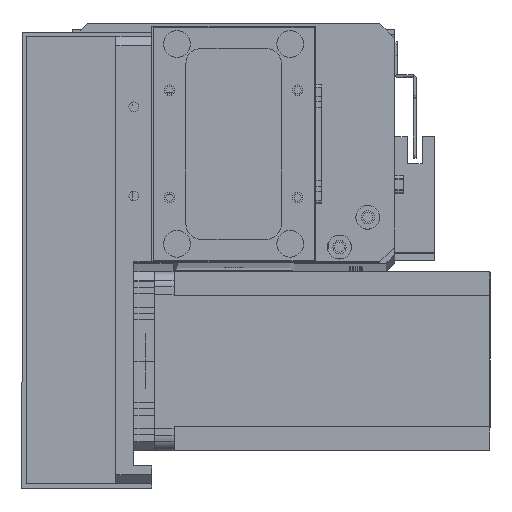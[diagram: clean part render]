
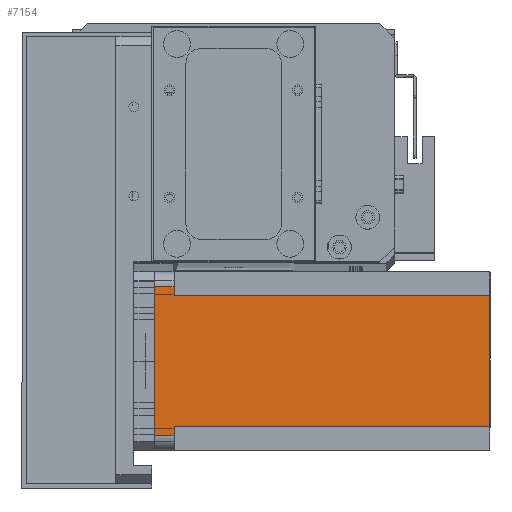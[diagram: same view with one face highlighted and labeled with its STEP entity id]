
A CAD part, top view. The second image highlights one B-rep face of the part: STEP entity #7154.
In plain terms, the highlighted planar face has unit normal (0, 0, 1) as drawn and (0, 1, 0) by its records, which use the part's own axes.
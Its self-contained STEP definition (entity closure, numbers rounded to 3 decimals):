
#1205 = EDGE_CURVE ( 'NONE', #16280, #31450, #6036, .T. ) ;
#1416 = DIRECTION ( 'NONE',  ( 0., 0., -1. ) ) ;
#1650 = DIRECTION ( 'NONE',  ( 0., 0., 1. ) ) ;
#2431 = DIRECTION ( 'NONE',  ( 1., 0., 0. ) ) ;
#3216 = EDGE_CURVE ( 'NONE', #16664, #22192, #31682, .T. ) ;
#3720 = CARTESIAN_POINT ( 'NONE',  ( 8., 60., -6.5 ) ) ;
#4175 = EDGE_LOOP ( 'NONE', ( #22385, #21781, #17034, #6316, #9588, #5628, #22429, #13817 ) ) ;
#4256 = DIRECTION ( 'NONE',  ( 0., 0., 1. ) ) ;
#4469 = DIRECTION ( 'NONE',  ( 0., 1., 0. ) ) ;
#4618 = PLANE ( 'NONE',  #11406 ) ;
#5602 = CARTESIAN_POINT ( 'NONE',  ( 0., 60., -112.5 ) ) ;
#5612 = DIRECTION ( 'NONE',  ( -1., 0., 0. ) ) ;
#5628 = ORIENTED_EDGE ( 'NONE', *, *, #19451, .F. ) ;
#6036 = LINE ( 'NONE', #7801, #17855 ) ;
#6047 = LINE ( 'NONE', #16499, #24999 ) ;
#6316 = ORIENTED_EDGE ( 'NONE', *, *, #15897, .F. ) ;
#6620 = LINE ( 'NONE', #26388, #30311 ) ;
#7154 = ADVANCED_FACE ( 'NONE', ( #30375 ), #4618, .T. ) ;
#7505 = VERTEX_POINT ( 'NONE', #26458 ) ;
#7801 = CARTESIAN_POINT ( 'NONE',  ( 0., 60., -112.5 ) ) ;
#9310 = CARTESIAN_POINT ( 'NONE',  ( 0., 60., 0. ) ) ;
#9588 = ORIENTED_EDGE ( 'NONE', *, *, #1205, .T. ) ;
#9625 = VERTEX_POINT ( 'NONE', #28809 ) ;
#11406 = AXIS2_PLACEMENT_3D ( 'NONE', #5602, #4469, #4256 ) ;
#11887 = DIRECTION ( 'NONE',  ( -1., 0., 0. ) ) ;
#12288 = EDGE_CURVE ( 'NONE', #14797, #7505, #6047, .T. ) ;
#13817 = ORIENTED_EDGE ( 'NONE', *, *, #22963, .T. ) ;
#14003 = DIRECTION ( 'NONE',  ( 0., 0., -1. ) ) ;
#14092 = VERTEX_POINT ( 'NONE', #23872 ) ;
#14797 = VERTEX_POINT ( 'NONE', #19715 ) ;
#15897 = EDGE_CURVE ( 'NONE', #16280, #9625, #22647, .T. ) ;
#15906 = CARTESIAN_POINT ( 'NONE',  ( 8., 60., -112.5 ) ) ;
#16280 = VERTEX_POINT ( 'NONE', #18342 ) ;
#16499 = CARTESIAN_POINT ( 'NONE',  ( 55., 60., -112.5 ) ) ;
#16664 = VERTEX_POINT ( 'NONE', #26660 ) ;
#17034 = ORIENTED_EDGE ( 'NONE', *, *, #29650, .F. ) ;
#17273 = VECTOR ( 'NONE', #2431, 1000. ) ;
#17855 = VECTOR ( 'NONE', #26873, 1000. ) ;
#18022 = LINE ( 'NONE', #31878, #17273 ) ;
#18342 = CARTESIAN_POINT ( 'NONE',  ( 52., 60., -112.5 ) ) ;
#19331 = CARTESIAN_POINT ( 'NONE',  ( 52., 60., -112.5 ) ) ;
#19451 = EDGE_CURVE ( 'NONE', #16664, #31450, #6620, .T. ) ;
#19715 = CARTESIAN_POINT ( 'NONE',  ( 55., 60., 0. ) ) ;
#20248 = VECTOR ( 'NONE', #11887, 1000. ) ;
#20517 = EDGE_CURVE ( 'NONE', #14797, #14092, #27256, .T. ) ;
#21781 = ORIENTED_EDGE ( 'NONE', *, *, #12288, .T. ) ;
#21882 = VECTOR ( 'NONE', #1650, 1000. ) ;
#22192 = VERTEX_POINT ( 'NONE', #28233 ) ;
#22385 = ORIENTED_EDGE ( 'NONE', *, *, #20517, .F. ) ;
#22429 = ORIENTED_EDGE ( 'NONE', *, *, #3216, .T. ) ;
#22647 = LINE ( 'NONE', #19331, #21882 ) ;
#22687 = DIRECTION ( 'NONE',  ( 0., 0., 1. ) ) ;
#22963 = EDGE_CURVE ( 'NONE', #22192, #14092, #24201, .T. ) ;
#23467 = VECTOR ( 'NONE', #22687, 1000. ) ;
#23872 = CARTESIAN_POINT ( 'NONE',  ( 5., 60., 0. ) ) ;
#24201 = LINE ( 'NONE', #25032, #23467 ) ;
#24999 = VECTOR ( 'NONE', #14003, 1000. ) ;
#25032 = CARTESIAN_POINT ( 'NONE',  ( 5., 60., -112.5 ) ) ;
#25376 = VECTOR ( 'NONE', #5612, 1000. ) ;
#26388 = CARTESIAN_POINT ( 'NONE',  ( 8., 60., -112.5 ) ) ;
#26458 = CARTESIAN_POINT ( 'NONE',  ( 55., 60., -6.5 ) ) ;
#26660 = CARTESIAN_POINT ( 'NONE',  ( 8., 60., -6.5 ) ) ;
#26873 = DIRECTION ( 'NONE',  ( -1., 0., 0. ) ) ;
#27256 = LINE ( 'NONE', #9310, #20248 ) ;
#28233 = CARTESIAN_POINT ( 'NONE',  ( 5., 60., -6.5 ) ) ;
#28809 = CARTESIAN_POINT ( 'NONE',  ( 52., 60., -6.5 ) ) ;
#29650 = EDGE_CURVE ( 'NONE', #9625, #7505, #18022, .T. ) ;
#30311 = VECTOR ( 'NONE', #1416, 1000. ) ;
#30375 = FACE_OUTER_BOUND ( 'NONE', #4175, .T. ) ;
#31450 = VERTEX_POINT ( 'NONE', #15906 ) ;
#31682 = LINE ( 'NONE', #3720, #25376 ) ;
#31878 = CARTESIAN_POINT ( 'NONE',  ( 52., 60., -6.5 ) ) ;
